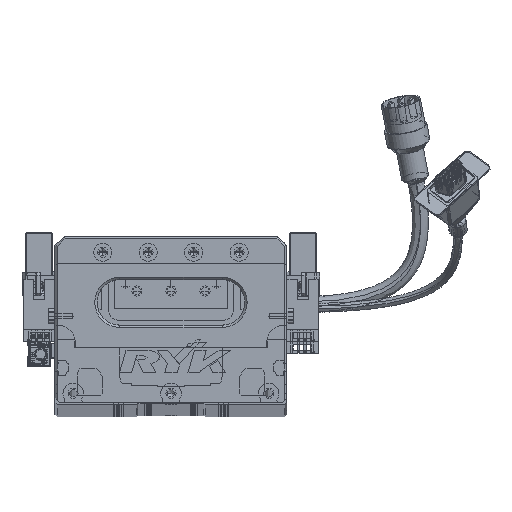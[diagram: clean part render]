
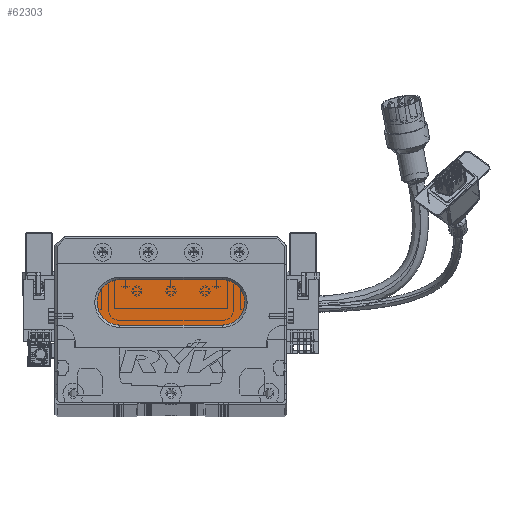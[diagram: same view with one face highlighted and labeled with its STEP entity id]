
A CAD part, top view. The second image highlights one B-rep face of the part: STEP entity #62303.
In plain terms, the highlighted planar face has unit normal (0, 0, 1) as drawn and (0, 0, -1) by its records, which use the part's own axes.
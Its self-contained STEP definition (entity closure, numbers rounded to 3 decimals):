
#180 = CARTESIAN_POINT ( 'NONE',  ( 18.5, 44., 13. ) ) ;
#3751 = ORIENTED_EDGE ( 'NONE', *, *, #68814, .T. ) ;
#6124 = DIRECTION ( 'NONE',  ( 0., 0., -1. ) ) ;
#9593 = ORIENTED_EDGE ( 'NONE', *, *, #20570, .T. ) ;
#12725 = VERTEX_POINT ( 'NONE', #55187 ) ;
#14467 = CARTESIAN_POINT ( 'NONE',  ( 73.5, 34., 13. ) ) ;
#15247 = DIRECTION ( 'NONE',  ( -1., 0., 0. ) ) ;
#16772 = CARTESIAN_POINT ( 'NONE',  ( 73.5, 54., 13. ) ) ;
#19682 = AXIS2_PLACEMENT_3D ( 'NONE', #21181, #28321, #15247 ) ;
#20570 = EDGE_CURVE ( 'NONE', #62223, #12725, #86460, .T. ) ;
#21181 = CARTESIAN_POINT ( 'NONE',  ( 73.5, 44., 13. ) ) ;
#21282 = DIRECTION ( 'NONE',  ( 0., 0., -1. ) ) ;
#22200 = PLANE ( 'NONE',  #88763 ) ;
#22498 = DIRECTION ( 'NONE',  ( -1., 0., 0. ) ) ;
#23390 = EDGE_LOOP ( 'NONE', ( #72993, #24188, #29687, #9593, #3751 ) ) ;
#24188 = ORIENTED_EDGE ( 'NONE', *, *, #80095, .T. ) ;
#28321 = DIRECTION ( 'NONE',  ( 0., 0., -1. ) ) ;
#28824 = DIRECTION ( 'NONE',  ( 0., 0., -1. ) ) ;
#29255 = EDGE_CURVE ( 'NONE', #31380, #43225, #75363, .T. ) ;
#29687 = ORIENTED_EDGE ( 'NONE', *, *, #39935, .T. ) ;
#31380 = VERTEX_POINT ( 'NONE', #16772 ) ;
#32883 = DIRECTION ( 'NONE',  ( 1., 0., 0. ) ) ;
#34355 = CARTESIAN_POINT ( 'NONE',  ( 28.5, 44., 13. ) ) ;
#36084 = LINE ( 'NONE', #67751, #80654 ) ;
#39935 = EDGE_CURVE ( 'NONE', #42563, #62223, #78037, .T. ) ;
#40403 = AXIS2_PLACEMENT_3D ( 'NONE', #63959, #28824, #56494 ) ;
#41412 = CARTESIAN_POINT ( 'NONE',  ( 28.5, 34., 13. ) ) ;
#42371 = DIRECTION ( 'NONE',  ( -1., 0., 0. ) ) ;
#42563 = VERTEX_POINT ( 'NONE', #41412 ) ;
#43225 = VERTEX_POINT ( 'NONE', #83418 ) ;
#51597 = FACE_OUTER_BOUND ( 'NONE', #23390, .T. ) ;
#53187 = AXIS2_PLACEMENT_3D ( 'NONE', #34355, #6124, #42371 ) ;
#55187 = CARTESIAN_POINT ( 'NONE',  ( 28.5, 54., 13. ) ) ;
#56494 = DIRECTION ( 'NONE',  ( -1., 0., 0. ) ) ;
#56718 = CARTESIAN_POINT ( 'NONE',  ( 73.5, 44., 13. ) ) ;
#62223 = VERTEX_POINT ( 'NONE', #180 ) ;
#62303 = ADVANCED_FACE ( 'NONE', ( #51597 ), #22200, .T. ) ;
#63959 = CARTESIAN_POINT ( 'NONE',  ( 28.5, 44., 13. ) ) ;
#67751 = CARTESIAN_POINT ( 'NONE',  ( 73.5, 54., 13. ) ) ;
#68814 = EDGE_CURVE ( 'NONE', #12725, #31380, #36084, .T. ) ;
#71830 = VECTOR ( 'NONE', #78493, 1000. ) ;
#72993 = ORIENTED_EDGE ( 'NONE', *, *, #29255, .T. ) ;
#75363 = CIRCLE ( 'NONE', #19682, 10. ) ;
#78037 = CIRCLE ( 'NONE', #53187, 10. ) ;
#78493 = DIRECTION ( 'NONE',  ( -1., 0., 0. ) ) ;
#80095 = EDGE_CURVE ( 'NONE', #43225, #42563, #84051, .T. ) ;
#80654 = VECTOR ( 'NONE', #32883, 1000. ) ;
#83418 = CARTESIAN_POINT ( 'NONE',  ( 73.5, 34., 13. ) ) ;
#84051 = LINE ( 'NONE', #14467, #71830 ) ;
#86460 = CIRCLE ( 'NONE', #40403, 10. ) ;
#88763 = AXIS2_PLACEMENT_3D ( 'NONE', #56718, #21282, #22498 ) ;
